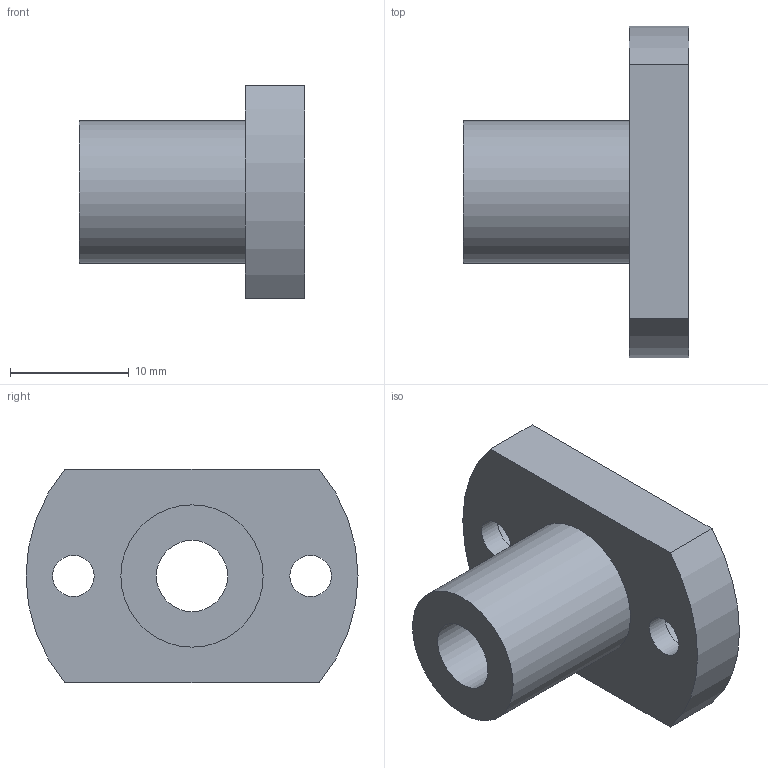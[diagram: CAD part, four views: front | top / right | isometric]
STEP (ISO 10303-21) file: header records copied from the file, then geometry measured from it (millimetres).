
FILE_DESCRIPTION(/* description */ ('Unknown'),/* implementation_level */ '2;1');
FILE_NAME(/* name */ 'LMH6UU',/* time_stamp */ '2025-02-03T14:01:13+08:00',/* author */ ('Unknown'),/* organization */ ('Unknown'),/* preprocessor_version */ 'ST-DEVELOPER v18.102',/* originating_system */ 'Solid Edge',/* authorisation */ 'Unknown');
FILE_SCHEMA (('AUTOMOTIVE_DESIGN {1 0 10303 214 3 1 1}'));
Length unit declared in the file: millimetre
Products named in the file (1): LMH6UU
Bounding box: 19 x 28 x 18 mm (x, y, z)
Volume: 3167.9 mm3; surface area: 2293 mm2
Topology: 1 solids, 1 shells, 15 faces, 32 edges, 22 vertices
Faces by surface type: cylinder 8, plane 7
Full cylindrical faces by diameter (mm): 3.5 x2, 6 x3, 12 x1
Entity records: 412 total; most frequent: DIRECTION 72, CARTESIAN_POINT 60, ORIENTED_EDGE 48, AXIS2_PLACEMENT_3D 32, EDGE_LOOP 30, FACE_BOUND 30, EDGE_CURVE 24, VERTEX_POINT 20
